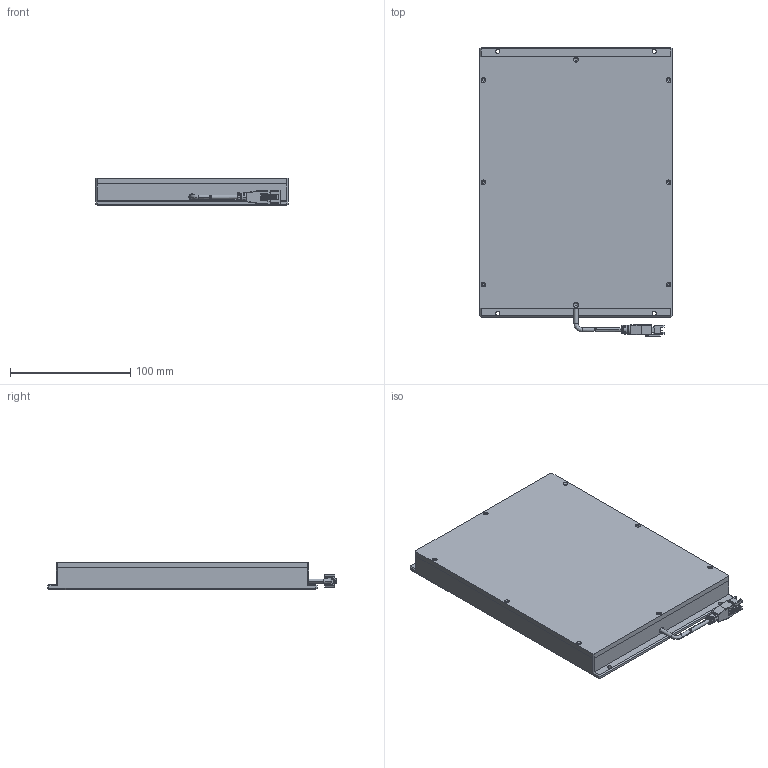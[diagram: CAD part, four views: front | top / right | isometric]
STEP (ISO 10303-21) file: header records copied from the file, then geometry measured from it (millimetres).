
FILE_DESCRIPTION (( 'STEP AP203' ), '1' );
FILE_NAME ('CRT-PFLD200150-¼òÒ×3DÍ¼.STEP', '2021-11-27T02:12:19', ( 'Admin' ), ( '' ), 'SwSTEP 2.0', 'SolidWorks 2018', '' );
FILE_SCHEMA (( 'CONFIG_CONTROL_DESIGN' ));
Length unit declared in the file: millimetre
Products named in the file (1): CRT-PFLD200150-潠眢3D芞
Bounding box: 160 x 239.95 x 22.5 mm (x, y, z)
Surface area: 90369.4 mm2 (no closed solid volume)
Topology: 0 solids, 4 shells, 254 faces, 729 edges, 465 vertices
Faces by surface type: plane 148, cylinder 76, cone 20, bspline 8, torus 2
Entity records: 8651 total; most frequent: CARTESIAN_POINT 2018, DIRECTION 1368, ORIENTED_EDGE 1281, EDGE_CURVE 729, VECTOR 484, LINE 484, VERTEX_POINT 465, AXIS2_PLACEMENT_3D 442
